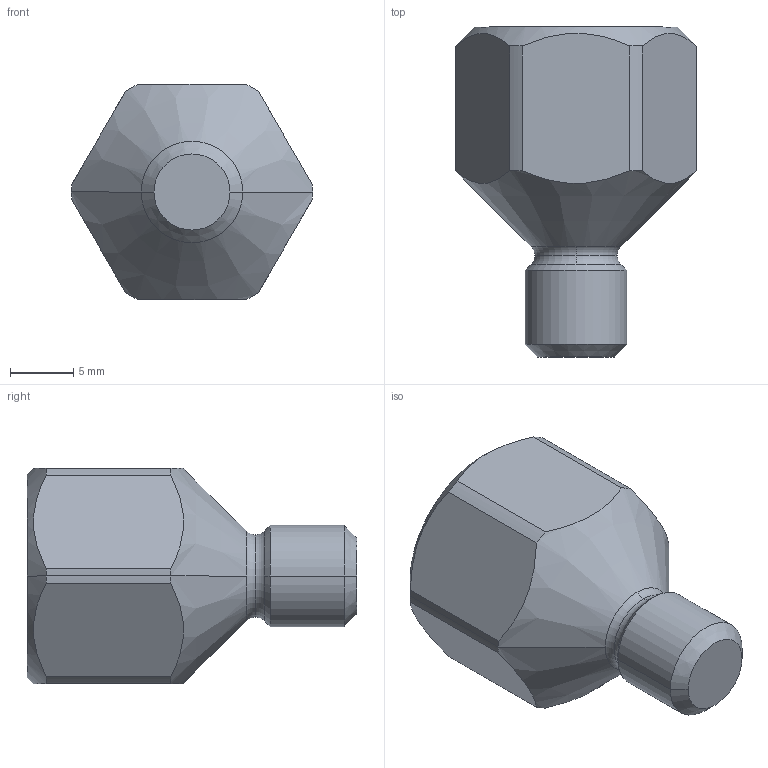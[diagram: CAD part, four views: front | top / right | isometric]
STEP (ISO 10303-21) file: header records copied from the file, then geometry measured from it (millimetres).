
FILE_DESCRIPTION( ( '' ), '1' );
FILE_NAME( '//expscmdclustefs.cadenas.external/client_exchange/iodir/jobs/output/wkb55034089_no0/STEP/E30132_204.stp', '2013-03-01T09:31:39', ( '' ), ( '' ), ' ', ' ', ' ' );
FILE_SCHEMA( ( 'CONFIG_CONTROL_DESIGN' ) );
Length unit declared in the file: millimetre
Products named in the file (1): 1
Bounding box: 19 x 26 x 17 mm (x, y, z)
Volume: 3401 mm3; surface area: 1729 mm2
Topology: 1 solids, 1 shells, 36 faces, 88 edges, 53 vertices
Faces by surface type: cone 12, cylinder 12, plane 8, torus 4
Entity records: 1082 total; most frequent: CARTESIAN_POINT 200, DIRECTION 192, ORIENTED_EDGE 172, EDGE_CURVE 86, AXIS2_PLACEMENT_3D 81, VERTEX_POINT 53, CIRCLE 44, EDGE_LOOP 37
